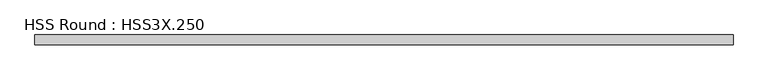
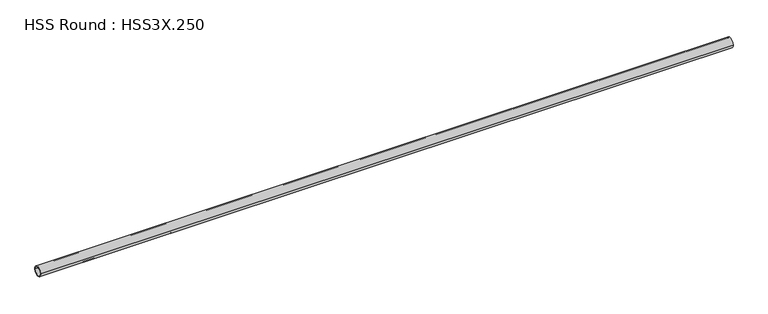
"""IFC4 building model written with IfcOpenShell, lengths in millimetres: member geometry, HSS Round : HSS3X.250."""

from ifc_helpers import new_model, si_unit, point, frame, origin, origin_2d, place, context, project, spatial, circle_curve, trimmed, segment, composite_curve, outline, extrude, source, transform, mapped, element, save


def hss_round_hss3x_250_41776640(model_context):
    return source(origin(), model_context, "Body", "SweptSolid", [
        extrude(outline(composite_curve([segment(trimmed(circle_curve(origin_2d(), 38.1), [point((-38.1, 0.0))], [point((38.1, 0.0))], False, "CARTESIAN"), True, "CONTINUOUS"), segment(trimmed(circle_curve(origin_2d(), 38.1), [point((38.1, 0.0))], [point((-38.1, 0.0))], False, "CARTESIAN"), True, "CONTINUOUS")], self_intersect=False), holes=[composite_curve([segment(trimmed(circle_curve(origin_2d(), 31.75), [point((31.75, 0.0))], [point((-31.75, 0.0))], True, "CARTESIAN"), True, "CONTINUOUS"), segment(trimmed(circle_curve(origin_2d(), 31.75), [point((-31.75, 0.0))], [point((31.75, 0.0))], True, "CARTESIAN"), True, "CONTINUOUS")], self_intersect=False)]), frame((-2727.9346235, 0.0, 0.0), z_axis=(1.0, 0.0, 0.0), x_axis=(0.0, 1.0, 0.0)), (0.0, 0.0, 1.0), 5383.5899962),
    ])


if __name__ == "__main__":
    model = new_model("IFC4")
    model_context = context("Model", 3, world=origin())
    ifc_project = project(units=[si_unit("LENGTHUNIT", "METRE", prefix="MILLI")], contexts=[model_context])
    site = spatial("IfcSite", under=ifc_project)
    building = spatial("IfcBuilding", under=site)
    placement = place(None, origin())
    hss_round_hss3x_250_shape = hss_round_hss3x_250_41776640(model_context)
    element("IfcMember", 1, ObjectType="HSS Round : HSS3X.250", at=placement, inside=building, context=model_context, shape_type="MappedRepresentation", body=[
        mapped(hss_round_hss3x_250_shape, transform((0.0, 0.0, 0.0), x_axis=(1.0, 0.0, 0.0), y_axis=(0.0, 1.0, 0.0), z_axis=(0.0, 0.0, 1.0))),
    ])
    save(model, "model.ifc")
